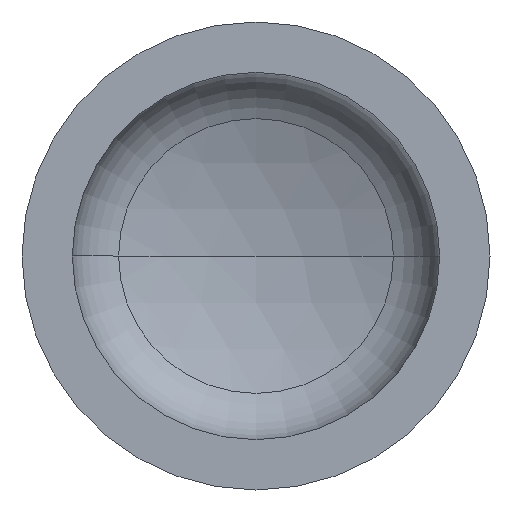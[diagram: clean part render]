
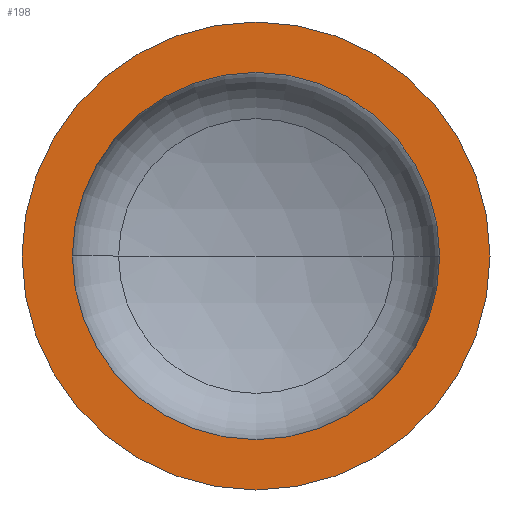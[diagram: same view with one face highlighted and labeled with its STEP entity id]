
A CAD part, front view. The second image highlights one B-rep face of the part: STEP entity #198.
In plain terms, the highlighted planar face has unit normal (0, -1, 0).
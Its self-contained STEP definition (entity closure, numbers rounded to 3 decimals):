
#8 = CARTESIAN_POINT ( 'NONE',  ( 0., 0., 0. ) ) ;
#10 = AXIS2_PLACEMENT_3D ( 'NONE', #225, #234, #149 ) ;
#37 = CIRCLE ( 'NONE', #175, 314. ) ;
#38 = AXIS2_PLACEMENT_3D ( 'NONE', #356, #354, #351 ) ;
#42 = AXIS2_PLACEMENT_3D ( 'NONE', #179, #181, #339 ) ;
#59 = EDGE_CURVE ( 'NONE', #106, #87, #115, .T. ) ;
#63 = EDGE_CURVE ( 'NONE', #163, #101, #407, .T. ) ;
#82 = ORIENTED_EDGE ( 'NONE', *, *, #63, .F. ) ;
#83 = FACE_BOUND ( 'NONE', #110, .T. ) ;
#84 = ORIENTED_EDGE ( 'NONE', *, *, #342, .T. ) ;
#87 = VERTEX_POINT ( 'NONE', #302 ) ;
#91 = CARTESIAN_POINT ( 'NONE',  ( -314., 0., 0. ) ) ;
#97 = DIRECTION ( 'NONE',  ( 1., 0., 0. ) ) ;
#101 = VERTEX_POINT ( 'NONE', #91 ) ;
#106 = VERTEX_POINT ( 'NONE', #152 ) ;
#110 = EDGE_LOOP ( 'NONE', ( #82, #279 ) ) ;
#111 = DIRECTION ( 'NONE',  ( 1., 0., 0. ) ) ;
#115 = CIRCLE ( 'NONE', #42, 400. ) ;
#149 = DIRECTION ( 'NONE',  ( -1., 0., 0. ) ) ;
#152 = CARTESIAN_POINT ( 'NONE',  ( -400., 0., 0. ) ) ;
#154 = FACE_OUTER_BOUND ( 'NONE', #284, .T. ) ;
#163 = VERTEX_POINT ( 'NONE', #190 ) ;
#175 = AXIS2_PLACEMENT_3D ( 'NONE', #220, #335, #97 ) ;
#179 = CARTESIAN_POINT ( 'NONE',  ( 0., 0., 0. ) ) ;
#181 = DIRECTION ( 'NONE',  ( 0., -1., 0. ) ) ;
#190 = CARTESIAN_POINT ( 'NONE',  ( 314., 0., 0. ) ) ;
#198 = ADVANCED_FACE ( 'NONE', ( #83, #154 ), #213, .F. ) ;
#213 = PLANE ( 'NONE',  #10 ) ;
#214 = ORIENTED_EDGE ( 'NONE', *, *, #59, .T. ) ;
#220 = CARTESIAN_POINT ( 'NONE',  ( 0., 0., 0. ) ) ;
#225 = CARTESIAN_POINT ( 'NONE',  ( -400., 0., 0. ) ) ;
#234 = DIRECTION ( 'NONE',  ( 0., 1., 0. ) ) ;
#238 = AXIS2_PLACEMENT_3D ( 'NONE', #8, #240, #111 ) ;
#240 = DIRECTION ( 'NONE',  ( 0., -1., 0. ) ) ;
#279 = ORIENTED_EDGE ( 'NONE', *, *, #320, .F. ) ;
#284 = EDGE_LOOP ( 'NONE', ( #84, #214 ) ) ;
#302 = CARTESIAN_POINT ( 'NONE',  ( 400., 0., 0. ) ) ;
#320 = EDGE_CURVE ( 'NONE', #101, #163, #37, .T. ) ;
#335 = DIRECTION ( 'NONE',  ( 0., -1., 0. ) ) ;
#339 = DIRECTION ( 'NONE',  ( 1., 0., 0. ) ) ;
#342 = EDGE_CURVE ( 'NONE', #87, #106, #352, .T. ) ;
#351 = DIRECTION ( 'NONE',  ( 1., 0., 0. ) ) ;
#352 = CIRCLE ( 'NONE', #238, 400. ) ;
#354 = DIRECTION ( 'NONE',  ( 0., -1., 0. ) ) ;
#356 = CARTESIAN_POINT ( 'NONE',  ( 0., 0., 0. ) ) ;
#407 = CIRCLE ( 'NONE', #38, 314. ) ;
